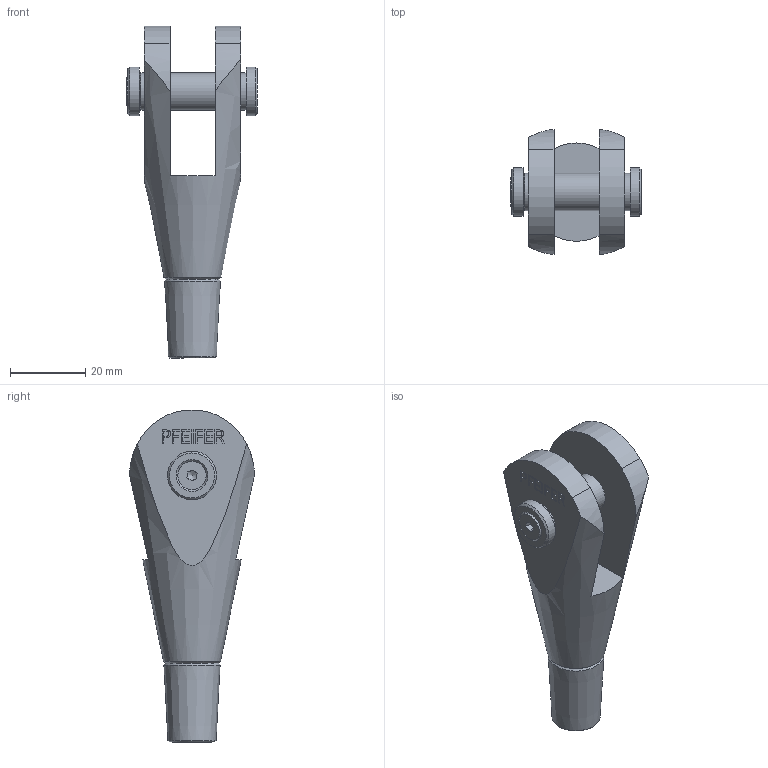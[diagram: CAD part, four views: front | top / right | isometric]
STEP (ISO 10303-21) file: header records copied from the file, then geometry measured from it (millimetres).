
FILE_DESCRIPTION(/* description */ (''),/* implementation_level */ '2;1');
FILE_NAME(/* name */ 'C:\Vault_WS\Designs\520-010-GAK.stp',/* time_stamp */ '2020-06-25T07:43:35+02:00',/* author */ ('schwarz'),/* organization */ (''),/* preprocessor_version */ 'ST-DEVELOPER v16.1',/* originating_system */ 'Autodesk Inventor 2016',/* authorisation */ '');
FILE_SCHEMA (('AUTOMOTIVE_DESIGN { 1 0 10303 214 3 1 1 }'));
Length unit declared in the file: centimetre
Products named in the file (1): 520-010-GAK-KMU-Kunde
Bounding box: 34.78 x 33.25 x 88.44 mm (x, y, z)
Volume: 26398.2 mm3; surface area: 10058.6 mm2
Topology: 1 solids, 2 shells, 185 faces, 478 edges, 316 vertices
Faces by surface type: plane 136, bspline 21, cylinder 16, cone 12
Full cylindrical faces by diameter (mm): 3.242 x1, 4 x1, 4.5 x1, 7.53 x1, 10 x3, 10.5 x1, 13 x2
Entity records: 5744 total; most frequent: CARTESIAN_POINT 1269, ORIENTED_EDGE 898, DIRECTION 764, EDGE_CURVE 449, LINE 348, VECTOR 348, VERTEX_POINT 309, EDGE_LOOP 228
